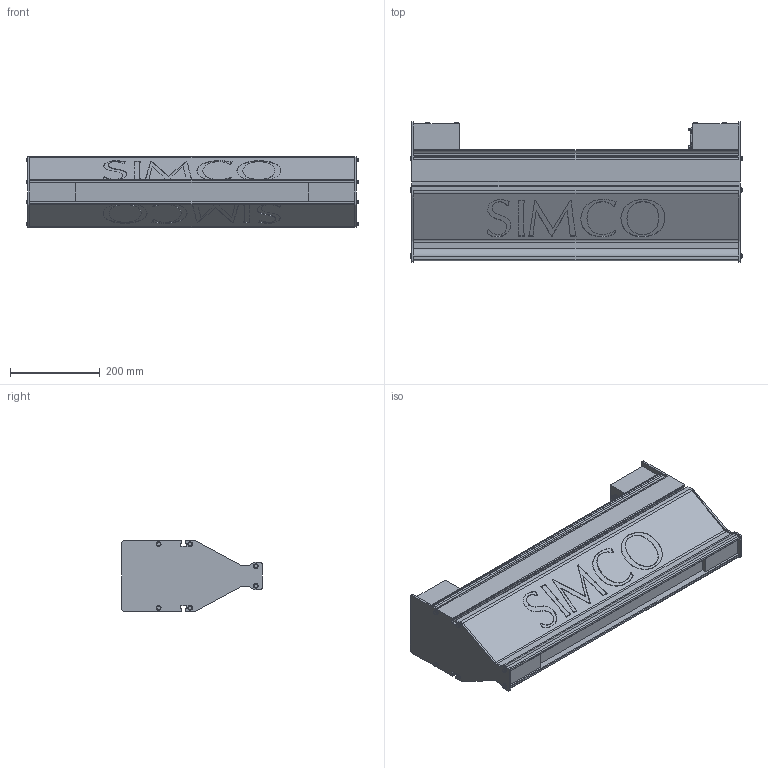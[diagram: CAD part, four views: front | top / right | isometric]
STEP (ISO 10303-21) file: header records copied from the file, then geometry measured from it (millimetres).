
FILE_DESCRIPTION(('ONLY FOR INFORMATION','HiCAD-Model','HiCAD-STEP-TRANSLATION'),'2;1');
FILE_NAME('Q:/##','2010-00-00',('D&E Department'),('Simco (Nederland) B.V.','Aalsvoort 74','NL-7241 MB LOCHEM','www.simco-ion.nl'),' HiCAD neXt 2007, Step 3.1.1212.3C ','HiCAD neXt 2007','confidential');
FILE_SCHEMA(('AUTOMOTIVE_DESIGN { 1 2 10303 214 0 1 1 1 }'));
Products named in the file (2): SIMCO_BLOWION_520; SIMCO_BLOWION
Assembly tree (1 placements, depth 2):
  SIMCO_BLOWION_520
    SIMCO_BLOWION
Bounding box: 739.18 x 312.91 x 157.15 mm (x, y, z)
Volume: 21256472.8 mm3; surface area: 748087.8 mm2
Topology: 1 solids, 15 shells, 1742 faces, 4696 edges, 3042 vertices
Faces by surface type: plane 1197, cone 270, cylinder 219, torus 54, sphere 2
Full cylindrical faces by diameter (mm): 2.387 x2, 2.6 x2, 3 x2, 3.4 x2, 4.998 x4, 5.998 x8, 8.397 x8
Entity records: 102047 total; most frequent: CARTESIAN_POINT 21736, ORIENTED_EDGE 9276, DIRECTION 8431, COLOUR_RGB 6381, PRESENTATION_STYLE_ASSIGNMENT 6381, OVER_RIDING_STYLED_ITEM 6380, CURVE_STYLE 4638, DRAUGHTING_PRE_DEFINED_CURVE_FONT 4638
